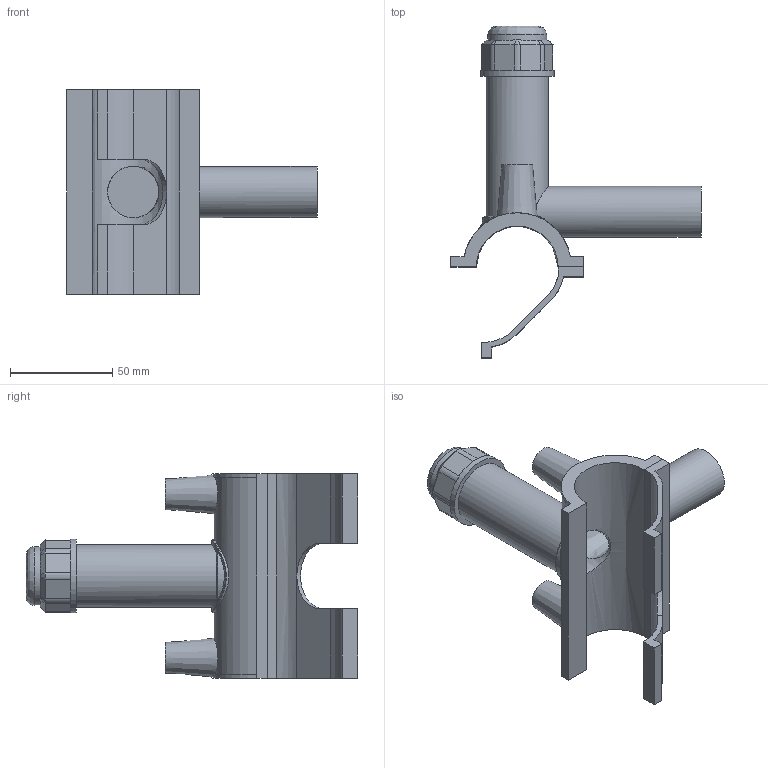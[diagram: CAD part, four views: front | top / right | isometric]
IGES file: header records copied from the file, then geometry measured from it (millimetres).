
Global section: file name: 496304040025.ipt; native system: Autodesk Inventor 2015; preprocessor: unknown; author: KIM; date: 20190124.130554; units: millimetre
Bounding box: 122.5 x 162.4 x 100 mm (x, y, z)
Volume: 124327 mm3; surface area: 61818.6 mm2
Topology: 2 solids, 2 shells, 115 faces, 298 edges, 195 vertices
Faces by surface type: plane 68, cylinder 23, cone 13, revolution 10, bspline 1
Full cylindrical faces by diameter (mm): 4 x2, 25 x1, 28.8 x1, 30.6 x1, 36 x1
